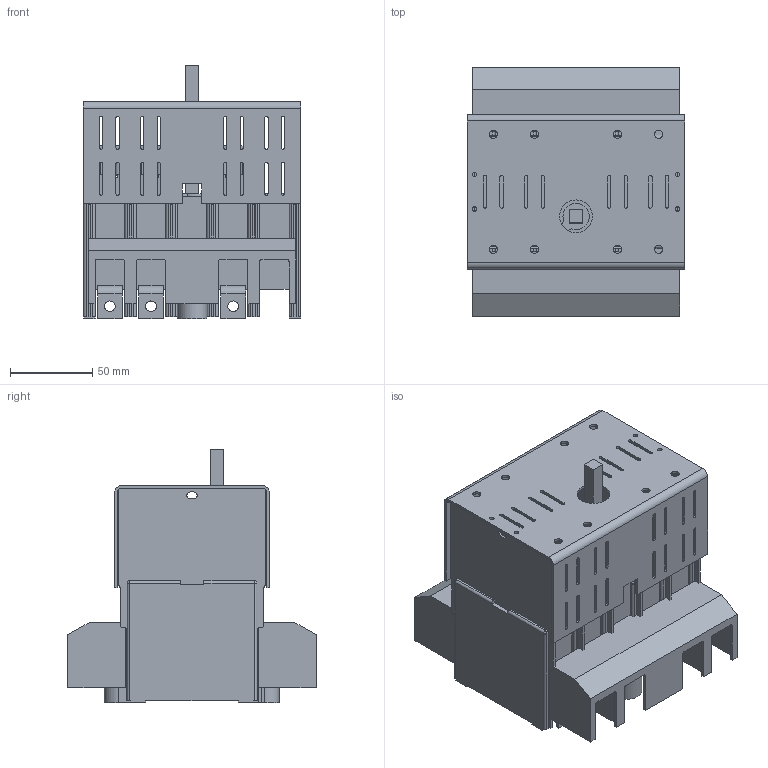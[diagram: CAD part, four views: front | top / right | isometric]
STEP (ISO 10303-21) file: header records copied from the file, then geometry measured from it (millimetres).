
FILE_DESCRIPTION(/* description */ (''),/* implementation_level */ '2;1');
FILE_NAME(/* name */ 'RAB 000 P3 B z oslona zaciskow.stp',/* time_stamp */ '2021-08-19T10:36:40+02:00',/* author */ (''),/* organization */ (''),/* preprocessor_version */ 'ST-DEVELOPER v18.1',/* originating_system */ 'SIEMENS PLM Software NX 1965',/* authorisation */ '');
FILE_SCHEMA (('AUTOMOTIVE_DESIGN { 1 0 10303 214 3 1 1 1 }'));
Length unit declared in the file: millimetre
Products named in the file (1): RAB 000 P3 B z oslona zaciskow_stp
Bounding box: 132.5 x 151.03 x 154 mm (x, y, z)
Volume: 774695.3 mm3; surface area: 257716.9 mm2
Topology: 1 solids, 1 shells, 1152 faces, 3344 edges, 2157 vertices
Faces by surface type: plane 766, cylinder 362, sphere 23, bspline 1
Full cylindrical faces by diameter (mm): 2.7 x4, 5 x8, 5.8 x2, 6.5 x6, 10 x2, 11.5 x2, 20 x1
Entity records: 37697 total; most frequent: CARTESIAN_POINT 6877, ORIENTED_EDGE 6562, DIRECTION 6215, EDGE_CURVE 3281, LINE 2489, VECTOR 2489, VERTEX_POINT 2143, AXIS2_PLACEMENT_3D 1863
